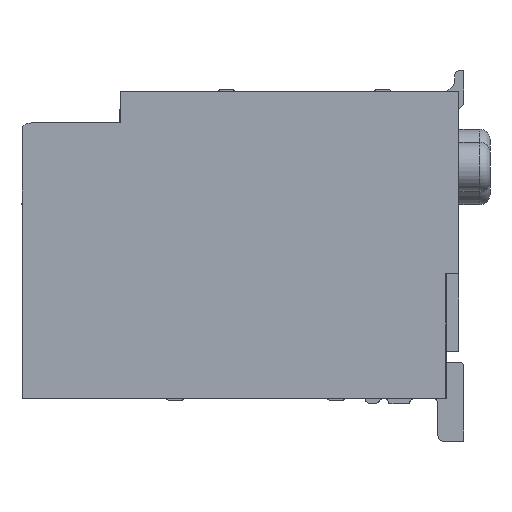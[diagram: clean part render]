
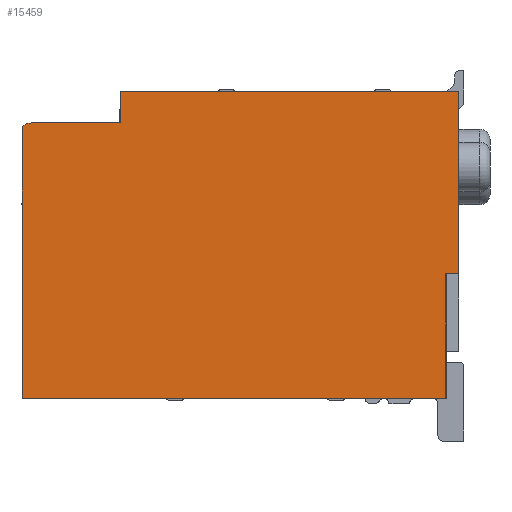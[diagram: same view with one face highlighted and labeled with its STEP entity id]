
A CAD part, left-side view. The second image highlights one B-rep face of the part: STEP entity #15459.
In plain terms, the highlighted planar face has unit normal (-1, 0, 0).
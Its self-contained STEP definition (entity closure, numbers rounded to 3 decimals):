
#406 = DIRECTION ( 'NONE',  ( -1., 0., 0. ) ) ;
#708 = VECTOR ( 'NONE', #132408, 1000. ) ;
#5570 = VERTEX_POINT ( 'NONE', #53257 ) ;
#7202 = ORIENTED_EDGE ( 'NONE', *, *, #108233, .T. ) ;
#9501 = EDGE_CURVE ( 'NONE', #19679, #141951, #149549, .T. ) ;
#9609 = VERTEX_POINT ( 'NONE', #123264 ) ;
#12400 = CARTESIAN_POINT ( 'NONE',  ( -6.675, -5.542, 2.484 ) ) ;
#12731 = CARTESIAN_POINT ( 'NONE',  ( -6.675, -13.704, 3.16 ) ) ;
#15459 = ADVANCED_FACE ( 'NONE', ( #137314 ), #150353, .T. ) ;
#16702 = VERTEX_POINT ( 'NONE', #30585 ) ;
#18856 = DIRECTION ( 'NONE',  ( 0., 1., 0. ) ) ;
#19679 = VERTEX_POINT ( 'NONE', #119684 ) ;
#23232 = EDGE_CURVE ( 'NONE', #140785, #142833, #151186, .T. ) ;
#24551 = CARTESIAN_POINT ( 'NONE',  ( -6.675, -13.692, -0.34 ) ) ;
#30045 = LINE ( 'NONE', #133944, #708 ) ;
#30302 = AXIS2_PLACEMENT_3D ( 'NONE', #31892, #125769, #55770 ) ;
#30585 = CARTESIAN_POINT ( 'NONE',  ( -6.675, -13.942, -0.34 ) ) ;
#31892 = CARTESIAN_POINT ( 'NONE',  ( -6.675, -5.742, 2.26 ) ) ;
#35411 = VECTOR ( 'NONE', #44267, 1000. ) ;
#36734 = CARTESIAN_POINT ( 'NONE',  ( -6.675, -13.692, -0.34 ) ) ;
#39683 = LINE ( 'NONE', #86618, #100519 ) ;
#40227 = LINE ( 'NONE', #151683, #118825 ) ;
#41192 = VERTEX_POINT ( 'NONE', #135915 ) ;
#41652 = ORIENTED_EDGE ( 'NONE', *, *, #89732, .F. ) ;
#42460 = CARTESIAN_POINT ( 'NONE',  ( -6.675, -7.442, 3.16 ) ) ;
#44267 = DIRECTION ( 'NONE',  ( 0., -1., 0. ) ) ;
#45038 = CARTESIAN_POINT ( 'NONE',  ( -6.675, -5.542, -2.74 ) ) ;
#48605 = DIRECTION ( 'NONE',  ( 0., 0., -1. ) ) ;
#51639 = DIRECTION ( 'NONE',  ( 0., -1., 0. ) ) ;
#52412 = CARTESIAN_POINT ( 'NONE',  ( -6.675, -13.704, 3.16 ) ) ;
#53257 = CARTESIAN_POINT ( 'NONE',  ( -6.675, -7.857, 3.16 ) ) ;
#55379 = ORIENTED_EDGE ( 'NONE', *, *, #78622, .T. ) ;
#55770 = DIRECTION ( 'NONE',  ( 0., 1., 0. ) ) ;
#57744 = VECTOR ( 'NONE', #66317, 1000. ) ;
#59086 = VERTEX_POINT ( 'NONE', #123437 ) ;
#59679 = CARTESIAN_POINT ( 'NONE',  ( -6.675, -5.742, 2.26 ) ) ;
#61358 = DIRECTION ( 'NONE',  ( 0., -1., 0. ) ) ;
#61823 = ORIENTED_EDGE ( 'NONE', *, *, #108308, .T. ) ;
#62117 = LINE ( 'NONE', #36734, #108389 ) ;
#66317 = DIRECTION ( 'NONE',  ( 0., 0., -1. ) ) ;
#70943 = LINE ( 'NONE', #12400, #95352 ) ;
#77162 = DIRECTION ( 'NONE',  ( 0., 1., 0. ) ) ;
#78622 = EDGE_CURVE ( 'NONE', #41192, #151067, #62117, .T. ) ;
#83042 = LINE ( 'NONE', #24551, #148225 ) ;
#83693 = ORIENTED_EDGE ( 'NONE', *, *, #151929, .T. ) ;
#86618 = CARTESIAN_POINT ( 'NONE',  ( -6.675, -13.942, 3.16 ) ) ;
#86896 = VECTOR ( 'NONE', #129288, 1000. ) ;
#88538 = ORIENTED_EDGE ( 'NONE', *, *, #23232, .T. ) ;
#89188 = ORIENTED_EDGE ( 'NONE', *, *, #148825, .T. ) ;
#89269 = VECTOR ( 'NONE', #77162, 1000. ) ;
#89674 = CARTESIAN_POINT ( 'NONE',  ( -6.675, -13.692, -2.74 ) ) ;
#89732 = EDGE_CURVE ( 'NONE', #5570, #94539, #108595, .T. ) ;
#89855 = ORIENTED_EDGE ( 'NONE', *, *, #142880, .T. ) ;
#93215 = DIRECTION ( 'NONE',  ( 0., 0., 1. ) ) ;
#94539 = VERTEX_POINT ( 'NONE', #12731 ) ;
#95352 = VECTOR ( 'NONE', #48605, 1000. ) ;
#98630 = CARTESIAN_POINT ( 'NONE',  ( -6.675, -13.942, 3.16 ) ) ;
#100519 = VECTOR ( 'NONE', #18856, 1000. ) ;
#100978 = LINE ( 'NONE', #135621, #89269 ) ;
#102882 = AXIS2_PLACEMENT_3D ( 'NONE', #59679, #406, #106613 ) ;
#103266 = ORIENTED_EDGE ( 'NONE', *, *, #108376, .T. ) ;
#106613 = DIRECTION ( 'NONE',  ( 0., -1., 0. ) ) ;
#107946 = EDGE_CURVE ( 'NONE', #148742, #94539, #30045, .T. ) ;
#108233 = EDGE_CURVE ( 'NONE', #151067, #16702, #83042, .T. ) ;
#108308 = EDGE_CURVE ( 'NONE', #9609, #19679, #100978, .T. ) ;
#108376 = EDGE_CURVE ( 'NONE', #142833, #41192, #40227, .T. ) ;
#108389 = VECTOR ( 'NONE', #61358, 1000. ) ;
#108595 = LINE ( 'NONE', #52412, #109862 ) ;
#109862 = VECTOR ( 'NONE', #51639, 1000. ) ;
#118825 = VECTOR ( 'NONE', #93215, 1000. ) ;
#119684 = CARTESIAN_POINT ( 'NONE',  ( -6.675, -5.742, 2.56 ) ) ;
#121139 = CARTESIAN_POINT ( 'NONE',  ( -6.675, -13.704, -0.34 ) ) ;
#123264 = CARTESIAN_POINT ( 'NONE',  ( -6.675, -7.442, 2.56 ) ) ;
#123437 = CARTESIAN_POINT ( 'NONE',  ( -6.675, -7.442, 3.16 ) ) ;
#125769 = DIRECTION ( 'NONE',  ( -1., 0., 0. ) ) ;
#126155 = ORIENTED_EDGE ( 'NONE', *, *, #9501, .T. ) ;
#129288 = DIRECTION ( 'NONE',  ( 0., 0., 1. ) ) ;
#130796 = CARTESIAN_POINT ( 'NONE',  ( -6.675, -13.942, -0.34 ) ) ;
#131491 = DIRECTION ( 'NONE',  ( 0., -1., 0. ) ) ;
#132408 = DIRECTION ( 'NONE',  ( 0., 1., 0. ) ) ;
#133944 = CARTESIAN_POINT ( 'NONE',  ( -6.675, -13.942, 3.16 ) ) ;
#135621 = CARTESIAN_POINT ( 'NONE',  ( -6.675, -7.442, 2.56 ) ) ;
#135915 = CARTESIAN_POINT ( 'NONE',  ( -6.675, -13.692, -0.34 ) ) ;
#136902 = CARTESIAN_POINT ( 'NONE',  ( -6.675, -5.542, 2.484 ) ) ;
#137061 = ORIENTED_EDGE ( 'NONE', *, *, #137601, .T. ) ;
#137314 = FACE_OUTER_BOUND ( 'NONE', #152318, .T. ) ;
#137601 = EDGE_CURVE ( 'NONE', #141951, #140785, #70943, .T. ) ;
#140078 = LINE ( 'NONE', #130796, #86896 ) ;
#140785 = VERTEX_POINT ( 'NONE', #148970 ) ;
#141951 = VERTEX_POINT ( 'NONE', #136902 ) ;
#142833 = VERTEX_POINT ( 'NONE', #89674 ) ;
#142880 = EDGE_CURVE ( 'NONE', #5570, #59086, #39683, .T. ) ;
#147843 = LINE ( 'NONE', #42460, #57744 ) ;
#148225 = VECTOR ( 'NONE', #131491, 1000. ) ;
#148742 = VERTEX_POINT ( 'NONE', #98630 ) ;
#148825 = EDGE_CURVE ( 'NONE', #59086, #9609, #147843, .T. ) ;
#148969 = ORIENTED_EDGE ( 'NONE', *, *, #107946, .T. ) ;
#148970 = CARTESIAN_POINT ( 'NONE',  ( -6.675, -5.542, -2.74 ) ) ;
#149549 = CIRCLE ( 'NONE', #102882, 0.3 ) ;
#150353 = PLANE ( 'NONE',  #30302 ) ;
#151067 = VERTEX_POINT ( 'NONE', #121139 ) ;
#151186 = LINE ( 'NONE', #45038, #35411 ) ;
#151683 = CARTESIAN_POINT ( 'NONE',  ( -6.675, -13.692, -2.74 ) ) ;
#151929 = EDGE_CURVE ( 'NONE', #16702, #148742, #140078, .T. ) ;
#152318 = EDGE_LOOP ( 'NONE', ( #137061, #88538, #103266, #55379, #7202, #83693, #148969, #41652, #89855, #89188, #61823, #126155 ) ) ;
